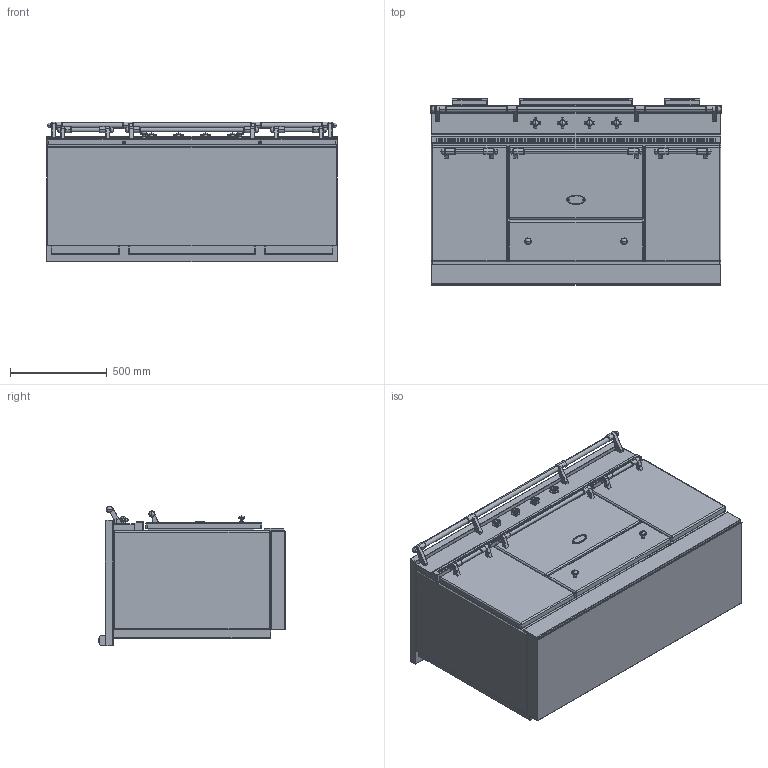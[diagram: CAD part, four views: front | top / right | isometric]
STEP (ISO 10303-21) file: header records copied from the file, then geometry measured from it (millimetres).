
FILE_DESCRIPTION((''),'2;1');
FILE_NAME('LVI1531__ASM','2021-12-08T08:47:15',('r.avril'),(''),'CREO PARAMETRIC BY PTC INC, 2017260','CREO PARAMETRIC BY PTC INC, 2017260','');
FILE_SCHEMA(('AP203_CONFIGURATION_CONTROLLED_3D_DESIGN_OF_MECHANICAL_PARTS_AND_ASSEMBLIES_MIM_LF { 1 0 10303 403 2 1 2 }'));
Products named in the file (21): BASE_EXPORT_FONTENAY_LVI1531; 65650003; 65650004; 65650006; 65650007; 6531940; 6531941; 6531943; 65049009; 65650001; 6538399; 1931942; 65080022_AF0; 6531942_ASM; BASE_EXPORT_FONTENAY_LVI1531_ASM; TABLE_1505_INDUCTION_ET_VTR; 65052012; CHEMINEE_2020_LG182_EXPORT_STEP; CHEMINEE_2020_LG582_EXPORT_STEP; TABLE_1505_INDUCTION_ASM; LVI1531__ASM
Assembly tree (29 placements, depth 4):
  LVI1531__ASM
    BASE_EXPORT_FONTENAY_LVI1531_ASM
      BASE_EXPORT_FONTENAY_LVI1531
      65650003
      65650004
      65650006
      65650007
      6531940  x3
      6531941  x3
      6531943  x2
      65049009
      65650001
      6531942_ASM  x4
        6538399
        1931942
        65080022_AF0
    TABLE_1505_INDUCTION_ASM
      TABLE_1505_INDUCTION_ET_VTR
      65052012
      CHEMINEE_2020_LG182_EXPORT_STEP  x2
      CHEMINEE_2020_LG582_EXPORT_STEP
Bounding box: 1505 x 963 x 724 mm (x, y, z)
Volume: 554563528.4 mm3; surface area: 13441148.7 mm2
Topology: 40 solids, 52 shells, 4479 faces, 12150 edges, 7778 vertices
Faces by surface type: plane 2285, cylinder 1552, torus 204, sphere 146, extrusion 114, bspline 88, cone 74, revolution 16
Entity records: 119232 total; most frequent: CARTESIAN_POINT 25783, ORIENTED_EDGE 16584, DIRECTION 16300, EDGE_CURVE 8306, VECTOR 5588, LINE 5558, VERTEX_POINT 5367, AXIS2_PLACEMENT_3D 5322
